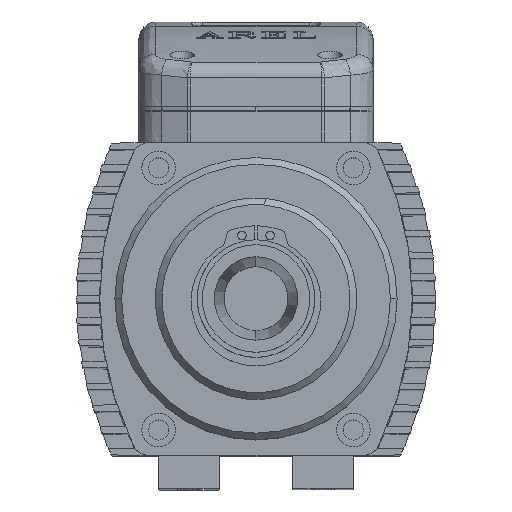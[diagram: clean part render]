
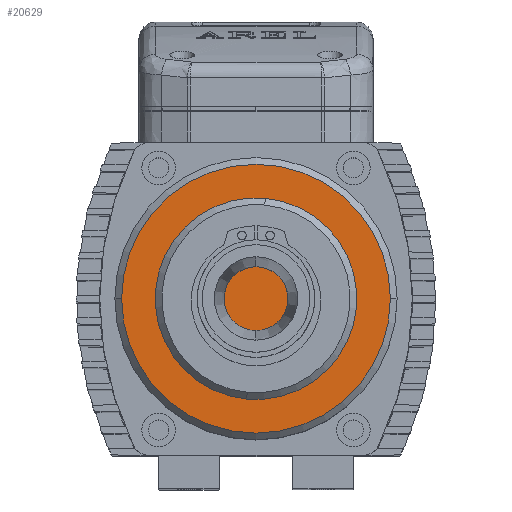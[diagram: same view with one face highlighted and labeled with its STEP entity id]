
A CAD part, top view. The second image highlights one B-rep face of the part: STEP entity #20629.
In plain terms, the highlighted planar face has unit normal (0, 0, 1).
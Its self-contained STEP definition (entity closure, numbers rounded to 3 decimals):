
#30 = EDGE_CURVE ( 'NONE', #9637, #45221, #25693, .T. ) ;
#410 = CARTESIAN_POINT ( 'NONE',  ( 40., 0., 50. ) ) ;
#9637 = VERTEX_POINT ( 'NONE', #12691 ) ;
#12605 = AXIS2_PLACEMENT_3D ( 'NONE', #47493, #41254, #35034 ) ;
#12691 = CARTESIAN_POINT ( 'NONE',  ( -40., 0., 50. ) ) ;
#13113 = AXIS2_PLACEMENT_3D ( 'NONE', #37248, #31007, #24767 ) ;
#17747 = AXIS2_PLACEMENT_3D ( 'NONE', #36639, #30397, #24145 ) ;
#20629 = ADVANCED_FACE ( 'NONE', ( #57797 ), #53712, .T. ) ;
#22445 = EDGE_CURVE ( 'NONE', #45221, #9637, #48242, .T. ) ;
#24145 = DIRECTION ( 'NONE',  ( 1., 0., 0. ) ) ;
#24767 = DIRECTION ( 'NONE',  ( 1., 0., 0. ) ) ;
#25693 = CIRCLE ( 'NONE', #17747, 40. ) ;
#29359 = ORIENTED_EDGE ( 'NONE', *, *, #22445, .T. ) ;
#30397 = DIRECTION ( 'NONE',  ( 0., 0., 1. ) ) ;
#31007 = DIRECTION ( 'NONE',  ( 0., 0., 1. ) ) ;
#34343 = ORIENTED_EDGE ( 'NONE', *, *, #30, .T. ) ;
#35034 = DIRECTION ( 'NONE',  ( 1., 0., 0. ) ) ;
#36639 = CARTESIAN_POINT ( 'NONE',  ( 0., 0., 50. ) ) ;
#37248 = CARTESIAN_POINT ( 'NONE',  ( 0., 0., 50. ) ) ;
#41254 = DIRECTION ( 'NONE',  ( 0., 0., 1. ) ) ;
#42980 = EDGE_LOOP ( 'NONE', ( #34343, #29359 ) ) ;
#45221 = VERTEX_POINT ( 'NONE', #410 ) ;
#47493 = CARTESIAN_POINT ( 'NONE',  ( 0., 0., 50. ) ) ;
#48242 = CIRCLE ( 'NONE', #13113, 40. ) ;
#53712 = PLANE ( 'NONE',  #12605 ) ;
#57797 = FACE_OUTER_BOUND ( 'NONE', #42980, .T. ) ;
